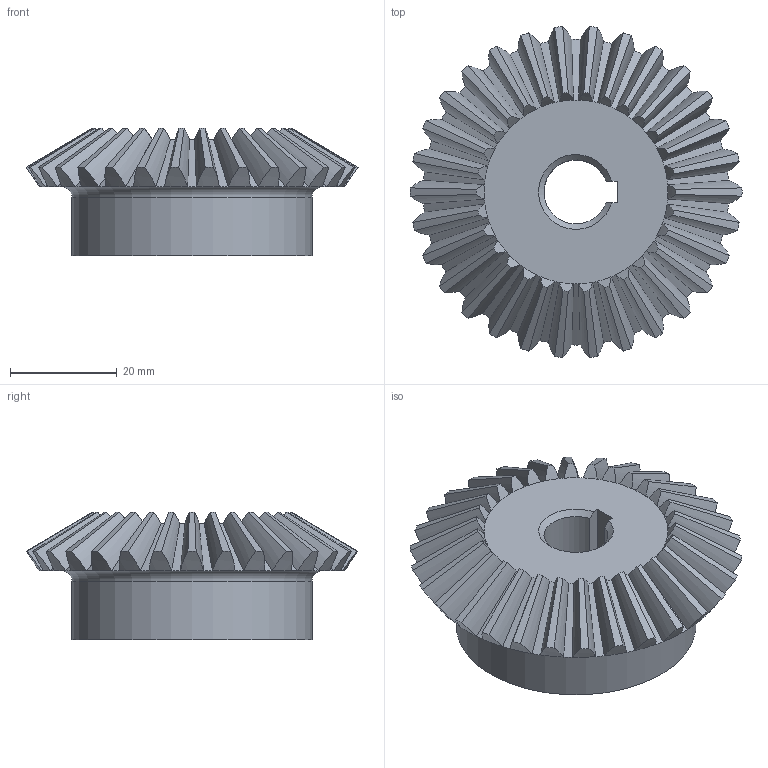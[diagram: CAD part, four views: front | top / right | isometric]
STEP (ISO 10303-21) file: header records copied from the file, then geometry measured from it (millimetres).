
FILE_DESCRIPTION(/* description */ (''),/* implementation_level */ '2;1');
FILE_NAME(/* name */ '',/* time_stamp */ '2024-08-02T13:16:11+09:00',/* author */ ('jhkim'),/* organization */ (''),/* preprocessor_version */ 'ST-DEVELOPER v20',/* originating_system */ 'Autodesk Inventor 2025',/* authorisation */ '');
FILE_SCHEMA (('AUTOMOTIVE_DESIGN { 1 0 10303 214 3 1 1 }'));
Length unit declared in the file: millimetre
Products named in the file (1): 메인베벨기어
Bounding box: 62.22 x 62.02 x 23.98 mm (x, y, z)
Volume: 36891.8 mm3; surface area: 10772.6 mm2
Topology: 1 solids, 1 shells, 191 faces, 443 edges, 255 vertices
Faces by surface type: cone 122, bspline 60, plane 6, cylinder 2, torus 1
Full cylindrical faces by diameter (mm): 45 x1
Entity records: 7420 total; most frequent: CARTESIAN_POINT 3598, ORIENTED_EDGE 886, DIRECTION 651, EDGE_CURVE 443, AXIS2_PLACEMENT_3D 320, VERTEX_POINT 255, B_SPLINE_CURVE_WITH_KNOTS 240, EDGE_LOOP 194
